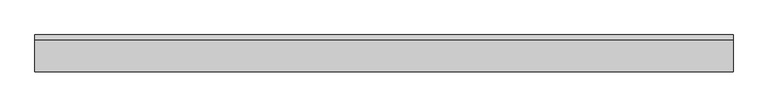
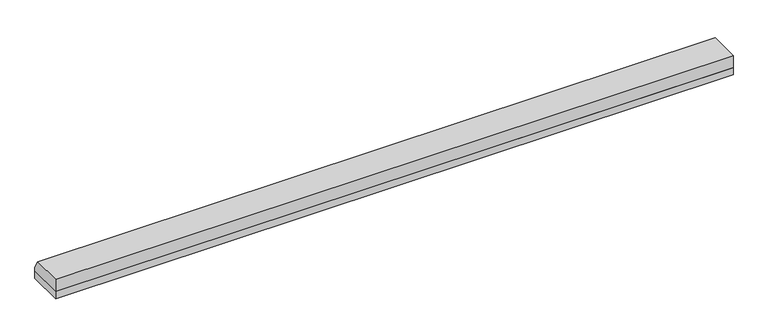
"""IFC4 building model written with IfcOpenShell, lengths in millimetres: proxy geometry, Spinneybeck_ARO Plank 7 : A - 5’-6”  x 3 1/2” x 1 1/4”."""

from ifc_helpers import new_model, si_unit, frame, origin, origin_with_axes, place, context, project, spatial, polyline, outline, extrude, source, transform, mapped, element, save


def specialty_equipment_50deff0f(model_context):
    return source(origin(), model_context, "Body", "SweptSolid", [
        extrude(outline(polyline([(44.45, 19.05), (-44.45, 19.05), (-44.45, 50.8), (31.4559581, 50.8), (44.45, 28.2936592), (44.45, 19.05)])), frame((-838.2, 0.0, 0.0), z_axis=(1.0, 0.0, 0.0), x_axis=(0.0, 1.0, 0.0)), (0.0, 0.0, 1.0), 1676.4),
        extrude(outline(polyline([(-838.2, -44.45), (-838.2, 44.45), (838.2, 44.45), (838.2, -44.45), (-838.2, -44.45)])), origin_with_axes(), (0.0, 0.0, 1.0), 19.05),
    ])


if __name__ == "__main__":
    model = new_model("IFC4")
    model_context = context("Model", 3, world=origin())
    ifc_project = project(units=[si_unit("LENGTHUNIT", "METRE", prefix="MILLI")], contexts=[model_context])
    site = spatial("IfcSite", under=ifc_project)
    building = spatial("IfcBuilding", under=site)
    placement = place(None, origin())
    specialty_equipment_shape = specialty_equipment_50deff0f(model_context)
    element("IfcBuildingElementProxy", 1, Name="Spinneybeck_ARO Plank 7 : A - 5’-6”  x 3 1/2” x 1 1/4”", ObjectType="Spinneybeck_ARO Plank 7 : A - 5’-6”  x 3 1/2” x 1 1/4”", at=placement, inside=building, context=model_context, shape_type="MappedRepresentation", body=[
        mapped(specialty_equipment_shape, transform((0.0, 0.0, 0.0), x_axis=(1.0, 0.0, 0.0), y_axis=(0.0, 1.0, 0.0), z_axis=(0.0, 0.0, 1.0))),
    ])
    save(model, "model.ifc")
